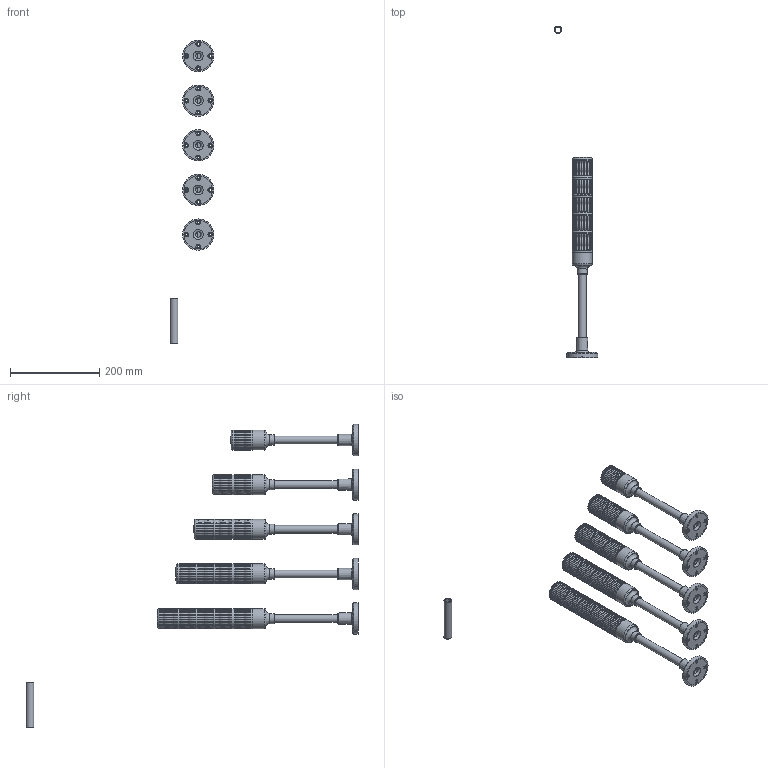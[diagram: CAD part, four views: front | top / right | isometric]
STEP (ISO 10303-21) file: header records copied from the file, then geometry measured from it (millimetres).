
FILE_DESCRIPTION(/* description */ (''),/* implementation_level */ '2;1');
FILE_NAME(/* name */ 'wcc-K4+18D.stp',/* time_stamp */ '2024-07-05T15:18:16+08:00',/* author */ (''),/* organization */ (''),/* preprocessor_version */ 'ST-DEVELOPER v16.7',/* originating_system */ 'SIEMENS PLM Software NX 12.0',/* authorisation */ '');
FILE_SCHEMA (('AUTOMOTIVE_DESIGN { 1 0 10303 214 3 1 1 1 }'));
Length unit declared in the file: millimetre
Products named in the file (1): _model2
Bounding box: 97.99 x 743.71 x 679.2 mm (x, y, z)
Volume: 1450409.6 mm3; surface area: 426562.5 mm2
Topology: 36 solids, 36 shells, 924 faces, 1976 edges, 1179 vertices
Faces by surface type: torus 500, plane 202, cylinder 197, cone 15, sphere 10
Full cylindrical faces by diameter (mm): 5.5 x20, 10.5 x20, 12 x5, 12.6 x1, 13.1 x5, 17.2 x6, 17.5 x5, 18.5 x5, 22 x5, 22.8 x5, 38.5 x5, 42 x40, 45 x40, 64 x5, 70 x5
Entity records: 21436 total; most frequent: CARTESIAN_POINT 4118, DIRECTION 3768, ORIENTED_EDGE 2398, AXIS2_PLACEMENT_3D 1819, EDGE_LOOP 1768, FACE_BOUND 1623, EDGE_CURVE 1199, VERTEX_POINT 1069
